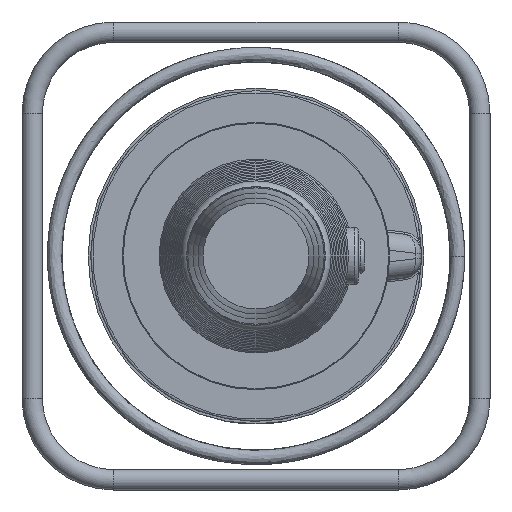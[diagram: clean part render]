
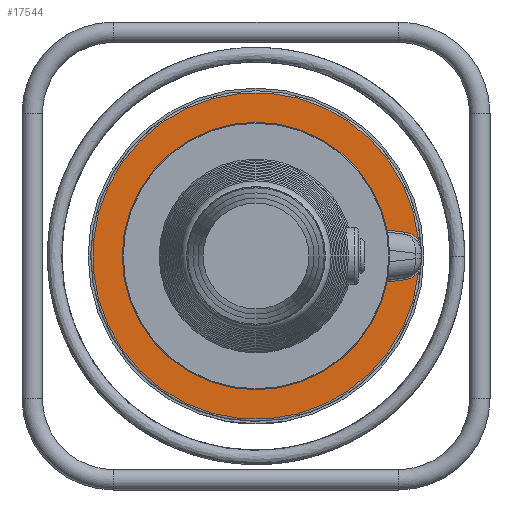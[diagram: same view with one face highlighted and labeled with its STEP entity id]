
A CAD part, left-side view. The second image highlights one B-rep face of the part: STEP entity #17544.
In plain terms, the highlighted planar face has unit normal (-1, 0, 0).
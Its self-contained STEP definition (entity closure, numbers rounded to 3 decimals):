
#1656=PLANE('',#18613);
#2600=LINE('',#39612,#3594);
#2602=LINE('',#39636,#3596);
#3594=VECTOR('',#21654,10.);
#3596=VECTOR('',#21684,10.);
#4596=FACE_OUTER_BOUND('',#5660,.T.);
#5660=EDGE_LOOP('',(#15272,#15273,#15274,#15275,#15276,#15277,#15278,#15279));
#6237=CIRCLE('',#18557,21.);
#6241=CIRCLE('',#18563,8.);
#6244=CIRCLE('',#18567,106.5);
#6247=CIRCLE('',#18571,8.);
#6251=CIRCLE('',#18577,21.);
#6260=CIRCLE('',#18594,160.5);
#8003=VERTEX_POINT('',#39579);
#8006=VERTEX_POINT('',#39604);
#8008=VERTEX_POINT('',#39610);
#8010=VERTEX_POINT('',#39616);
#8012=VERTEX_POINT('',#39622);
#8014=VERTEX_POINT('',#39628);
#8016=VERTEX_POINT('',#39634);
#8018=VERTEX_POINT('',#39640);
#10429=EDGE_CURVE('',#8006,#8003,#6237,.T.);
#10432=EDGE_CURVE('',#8008,#8006,#2600,.T.);
#10435=EDGE_CURVE('',#8010,#8008,#6241,.T.);
#10438=EDGE_CURVE('',#8012,#8010,#6244,.T.);
#10441=EDGE_CURVE('',#8014,#8012,#6247,.T.);
#10444=EDGE_CURVE('',#8016,#8014,#2602,.T.);
#10447=EDGE_CURVE('',#8018,#8016,#6251,.T.);
#10472=EDGE_CURVE('',#8003,#8018,#6260,.T.);
#15272=ORIENTED_EDGE('',*,*,#10447,.F.);
#15273=ORIENTED_EDGE('',*,*,#10472,.F.);
#15274=ORIENTED_EDGE('',*,*,#10429,.F.);
#15275=ORIENTED_EDGE('',*,*,#10432,.F.);
#15276=ORIENTED_EDGE('',*,*,#10435,.F.);
#15277=ORIENTED_EDGE('',*,*,#10438,.F.);
#15278=ORIENTED_EDGE('',*,*,#10441,.F.);
#15279=ORIENTED_EDGE('',*,*,#10444,.F.);
#17544=ADVANCED_FACE('',(#4596),#1656,.T.);
#18557=AXIS2_PLACEMENT_3D('',#39606,#21646,#21647);
#18563=AXIS2_PLACEMENT_3D('',#39618,#21660,#21661);
#18567=AXIS2_PLACEMENT_3D('',#39624,#21668,#21669);
#18571=AXIS2_PLACEMENT_3D('',#39630,#21676,#21677);
#18577=AXIS2_PLACEMENT_3D('',#39642,#21690,#21691);
#18594=AXIS2_PLACEMENT_3D('',#39793,#21734,#21735);
#18613=AXIS2_PLACEMENT_3D('',#40174,#21776,#21777);
#21646=DIRECTION('center_axis',(-1.,0.,0.));
#21647=DIRECTION('ref_axis',(0.,-0.558,-0.83));
#21654=DIRECTION('',(0.,-0.992,0.123));
#21660=DIRECTION('center_axis',(1.,0.,0.));
#21661=DIRECTION('ref_axis',(0.,0.634,0.773));
#21668=DIRECTION('center_axis',(-1.,0.,0.));
#21669=DIRECTION('ref_axis',(0.,1.,0.));
#21676=DIRECTION('center_axis',(1.,0.,0.));
#21677=DIRECTION('ref_axis',(0.,0.634,-0.773));
#21684=DIRECTION('',(0.,0.992,0.123));
#21690=DIRECTION('center_axis',(-1.,0.,0.));
#21691=DIRECTION('ref_axis',(0.,-0.558,0.83));
#21734=DIRECTION('center_axis',(1.,0.,0.));
#21735=DIRECTION('ref_axis',(0.,1.,0.));
#21776=DIRECTION('center_axis',(-1.,0.,0.));
#21777=DIRECTION('ref_axis',(0.,-1.,0.));
#39579=CARTESIAN_POINT('',(9.991,-159.713,-15.917));
#39604=CARTESIAN_POINT('',(9.991,-146.06,-23.435));
#39606=CARTESIAN_POINT('Origin',(9.991,-143.481,-2.594));
#39610=CARTESIAN_POINT('',(9.991,-107.675,-28.184));
#39612=CARTESIAN_POINT('',(9.991,-48.088,-35.557));
#39616=CARTESIAN_POINT('',(9.991,-101.065,-33.6));
#39618=CARTESIAN_POINT('Origin',(9.991,-108.657,-36.123));
#39622=CARTESIAN_POINT('',(9.991,-101.065,33.6));
#39624=CARTESIAN_POINT('Origin',(9.991,-0.004,0.));
#39628=CARTESIAN_POINT('',(9.991,-107.675,28.184));
#39630=CARTESIAN_POINT('Origin',(9.991,-108.657,36.123));
#39634=CARTESIAN_POINT('',(9.991,-146.06,23.435));
#39636=CARTESIAN_POINT('',(9.991,-64.356,33.544));
#39640=CARTESIAN_POINT('',(9.991,-159.713,15.917));
#39642=CARTESIAN_POINT('Origin',(9.991,-143.481,2.594));
#39793=CARTESIAN_POINT('Origin',(9.991,-0.004,0.));
#40174=CARTESIAN_POINT('Origin',(9.991,-0.004,-133.5));
